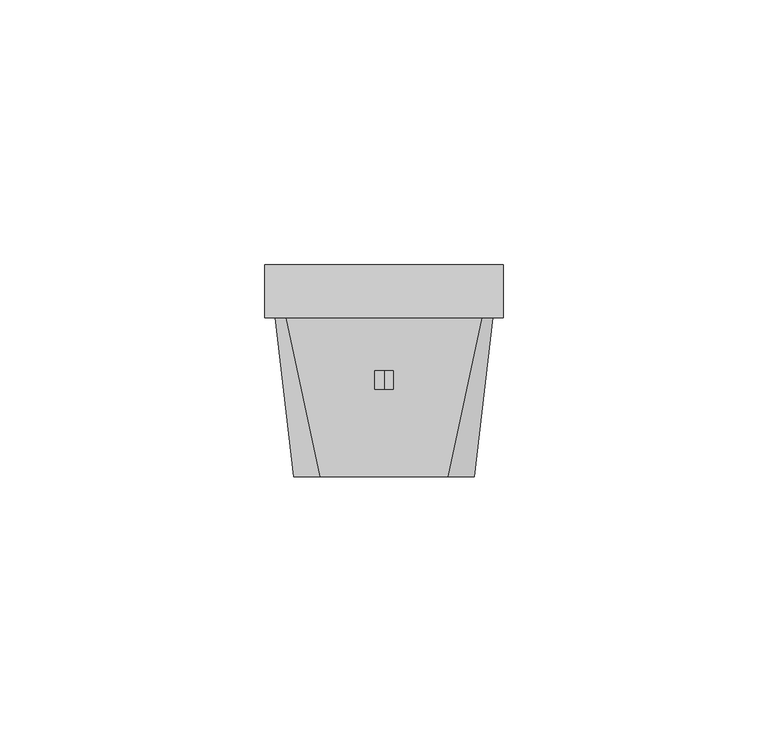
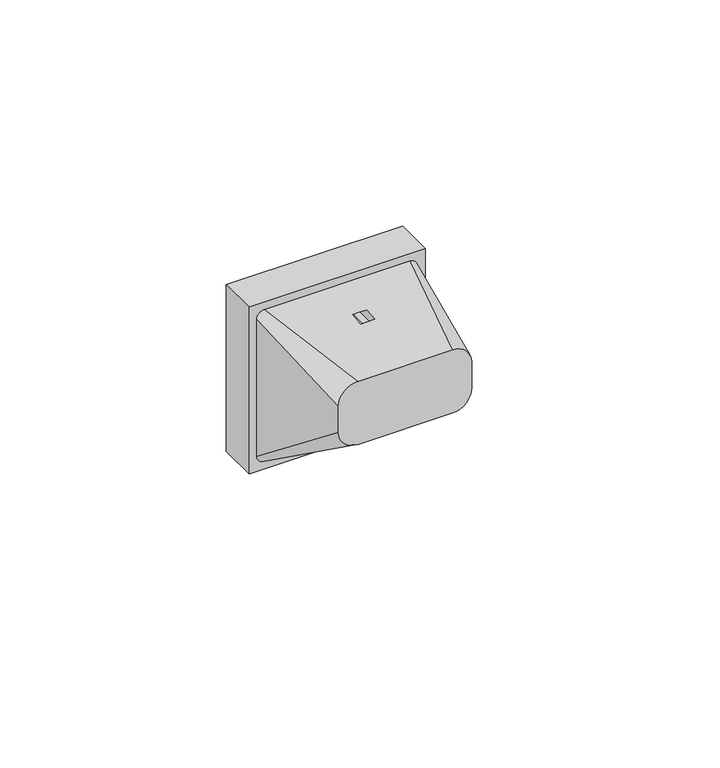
"""IFC4 building model written with IfcOpenShell, lengths in millimetres: proxy geometry, IEK_Skandy_Механизм розетки 230В : 230 В PE+шт._SK-R04B."""

import ifcopenshell
import ifcopenshell.guid

model = None  # the IFC model being written
_history = None  # IfcOwnerHistory: only IFC2X3 demands one
_inside = {}  # id of a spatial element -> (the spatial element, [elements in it])
_under = {}  # id of a project, library or spatial element -> (it, [spatial elements below it])
_declared = {}  # id of a project -> (the project, [libraries it declares])
_typed = {}  # id of a type object -> (the type object, [elements of that type])
_made_of = {}  # id of a material, layer set ... -> (it, [elements and type objects made of it])


def new_model(schema):
    """Start an empty IFC model of exactly this schema.

    Asked for "IFC4X3", IfcOpenShell would pick the latest addendum, in which some entities
    have other attributes; the version numbers below select the first issue.
    IFC2X3 requires an IfcOwnerHistory on every rooted entity: one is made here for all.
    """
    global model, _history
    if schema == "IFC4X3":
        model = ifcopenshell.file(schema_version=(4, 3, 0, 0))
    else:
        model = ifcopenshell.file(schema=schema)
    _inside.clear()
    _under.clear()
    _declared.clear()
    _typed.clear()
    _made_of.clear()
    _history = None
    if model.schema == "IFC2X3":
        org = make("IfcOrganization", Name="unknown")
        user = make(
            "IfcPersonAndOrganization",
            ThePerson=make("IfcPerson", FamilyName="unknown"),
            TheOrganization=org,
        )
        app = make(
            "IfcApplication",
            ApplicationDeveloper=org,
            Version="unknown",
            ApplicationFullName="unknown",
            ApplicationIdentifier="unknown",
        )
        _history = make(
            "IfcOwnerHistory",
            OwningUser=user,
            OwningApplication=app,
            ChangeAction="ADDED",
            CreationDate=0,
        )
    return model


def make(cls, **values):
    """One entity of the class cls with the attributes given. An attribute that is None is left unset."""
    return model.create_entity(
        cls, **{name: value for name, value in values.items() if value is not None}
    )


def rooted(cls, **values):
    """An entity with a GlobalId (a new one), such as an element, a storey or a relation."""
    return make(cls, GlobalId=ifcopenshell.guid.new(), OwnerHistory=_history, **values)


def si_unit(unit_type, name, prefix=None):
    """IfcSIUnit, for example si_unit("LENGTHUNIT", "METRE", prefix="MILLI")."""
    return make("IfcSIUnit", UnitType=unit_type, Prefix=prefix, Name=name)


def assignment(units):
    """IfcUnitAssignment: the units of a project."""
    return None if units is None else make("IfcUnitAssignment", Units=units)


def point(xyz):
    """IfcCartesianPoint."""
    return None if xyz is None else make("IfcCartesianPoint", Coordinates=xyz)


def direction(xyz):
    """IfcDirection."""
    return None if xyz is None else make("IfcDirection", DirectionRatios=xyz)


def frame(location, z_axis=None, x_axis=None):
    """IfcAxis2Placement3D, a coordinate frame: its origin and axes. An axis left out is left unset."""
    return make(
        "IfcAxis2Placement3D",
        Location=point(location),
        Axis=direction(z_axis),
        RefDirection=direction(x_axis),
    )


def frame_2d(location, x_axis=None):
    """IfcAxis2Placement2D, a coordinate frame in the plane: its origin and x axis."""
    return make(
        "IfcAxis2Placement2D", Location=point(location), RefDirection=direction(x_axis)
    )


def origin():
    """The frame at (0, 0, 0) with its axes left unset."""
    return frame((0.0, 0.0, 0.0))


def origin_2d():
    """The frame at (0, 0) in the plane with its x axis left unset."""
    return frame_2d((0.0, 0.0))


def place(relative_to, where):
    """IfcLocalPlacement: puts the frame where relative to a parent placement (None: the world)."""
    return make(
        "IfcLocalPlacement", PlacementRelTo=relative_to, RelativePlacement=where
    )


def context(
    kind, dimensions, precision=None, world=None, true_north=None, identifier=None
):
    """IfcGeometricRepresentationContext, for example the 3D "Model" context."""
    return make(
        "IfcGeometricRepresentationContext",
        ContextIdentifier=identifier,
        ContextType=kind,
        CoordinateSpaceDimension=dimensions,
        Precision=precision,
        WorldCoordinateSystem=world,
        TrueNorth=true_north,
    )


def project(units=None, contexts=None):
    """IfcProject with its units and contexts."""
    return rooted(
        "IfcProject",
        Name="project",
        RepresentationContexts=contexts,
        UnitsInContext=assignment(units),
    )


def spatial(cls, under=None, at=None, **own):
    """A site, building, storey or space (cls), placed at a placement, below another one or the project."""
    s = rooted(cls, ObjectPlacement=at, **own)
    if under is not None:
        _under.setdefault(under.id(), (under, []))[1].append(s)
    return s


def polyline(points):
    """IfcPolyline through the points."""
    return make("IfcPolyline", Points=[point(p) for p in points])


def circle_curve(where, radius):
    """IfcCircle in the frame where."""
    return make("IfcCircle", Position=where, Radius=radius)


def ellipse_curve(where, semi_axis1, semi_axis2):
    """IfcEllipse in the frame where."""
    return make(
        "IfcEllipse", Position=where, SemiAxis1=semi_axis1, SemiAxis2=semi_axis2
    )


def trimmed(basis, trim1, trim2, sense, master):
    """IfcTrimmedCurve: the piece of a basis curve between two trims."""
    return make(
        "IfcTrimmedCurve",
        BasisCurve=basis,
        Trim1=trim1,
        Trim2=trim2,
        SenseAgreement=sense,
        MasterRepresentation=master,
    )


def segment(curve, same_sense, transition):
    """IfcCompositeCurveSegment."""
    return make(
        "IfcCompositeCurveSegment",
        Transition=transition,
        SameSense=same_sense,
        ParentCurve=curve,
    )


def composite_curve(segments, self_intersect=None):
    """IfcCompositeCurve: segments joined end to end."""
    return make("IfcCompositeCurve", Segments=segments, SelfIntersect=self_intersect)


def outline(outer, holes=None, kind="AREA"):
    """IfcArbitraryClosedProfileDef: a profile drawn as a closed curve; with holes, ...WithVoids."""
    if holes is None:
        return make("IfcArbitraryClosedProfileDef", ProfileType=kind, OuterCurve=outer)
    return make(
        "IfcArbitraryProfileDefWithVoids",
        ProfileType=kind,
        OuterCurve=outer,
        InnerCurves=holes,
    )


def extrude(swept, where, along, depth):
    """IfcExtrudedAreaSolid: the profile swept, set in the frame where, extruded along a direction by depth."""
    return make(
        "IfcExtrudedAreaSolid",
        SweptArea=swept,
        Position=where,
        ExtrudedDirection=direction(along),
        Depth=depth,
    )


def shape(context_of_items, identifier, shape_type, items):
    """IfcShapeRepresentation: the items that make up one representation, for example the "Body"."""
    return make(
        "IfcShapeRepresentation",
        ContextOfItems=context_of_items,
        RepresentationIdentifier=identifier,
        RepresentationType=shape_type,
        Items=items,
    )


def source(mapping_origin, context_of_items, identifier, shape_type, items):
    """IfcRepresentationMap: a shape defined once, which mapped items show again and again."""
    return make(
        "IfcRepresentationMap",
        MappingOrigin=mapping_origin,
        MappedRepresentation=shape(context_of_items, identifier, shape_type, items),
    )


def transform(
    local_origin,
    x_axis=None,
    y_axis=None,
    z_axis=None,
    scale=None,
    scale2=None,
    scale3=None,
    uniform=True,
):
    """IfcCartesianTransformationOperator3D, or its non-uniform kind. x_axis, y_axis, z_axis: its Axis1, 2, 3."""
    if uniform:
        return make(
            "IfcCartesianTransformationOperator3D",
            Axis1=direction(x_axis),
            Axis2=direction(y_axis),
            LocalOrigin=point(local_origin),
            Scale=scale,
            Axis3=direction(z_axis),
        )
    return make(
        "IfcCartesianTransformationOperator3DnonUniform",
        Axis1=direction(x_axis),
        Axis2=direction(y_axis),
        LocalOrigin=point(local_origin),
        Scale=scale,
        Axis3=direction(z_axis),
        Scale2=scale2,
        Scale3=scale3,
    )


def mapped(mapping_source, mapping_target):
    """IfcMappedItem: shows the shape of a source again, moved by a transform."""
    return make(
        "IfcMappedItem", MappingSource=mapping_source, MappingTarget=mapping_target
    )


def made_of(thing, what):
    """Note that an element or type object is made of a material, layer set ...; save() writes the relation."""
    if what is not None:
        _made_of.setdefault(what.id(), (what, []))[1].append(thing)
    return thing


def element(
    cls,
    number,
    at=None,
    inside=None,
    cuts=None,
    type_object=None,
    material=None,
    context=None,
    identifier="Body",
    shape_type=None,
    held_by="IfcProductDefinitionShape",
    body=None,
    shapes=None,
    **own,
):
    """One element of the class cls, such as IfcWall. Its Tag is "e" and its number.

    at: its placement. inside: the storey or other place that contains it. cuts: it is an
    opening in that element (IfcRelVoidsElement). A single representation is given by context,
    identifier, shape_type and body (its items); several are given by shapes. held_by: the class
    of the entity that holds the representations. save() writes the other relations.
    """
    e = rooted(cls, Tag="e%d" % number, ObjectPlacement=at, **own)
    if body is not None:
        shapes = [shape(context, identifier, shape_type, body)]
    if shapes is not None:
        e.Representation = make(held_by, Representations=shapes)
    if inside is not None:
        _inside.setdefault(inside.id(), (inside, []))[1].append(e)
    if cuts is not None:
        rooted(
            "IfcRelVoidsElement", RelatingBuildingElement=cuts, RelatedOpeningElement=e
        )
    if type_object is not None:
        _typed.setdefault(type_object.id(), (type_object, []))[1].append(e)
    return made_of(e, material)


def aggregate(whole, parts):
    """IfcRelAggregates: a whole, such as a stair, and the parts it consists of."""
    return rooted("IfcRelAggregates", RelatingObject=whole, RelatedObjects=parts)


def save(model, path):
    """Write the relations noted so far, then the file.

    IfcRelAggregates (storeys below a building ...), IfcRelContainedInSpatialStructure (elements
    in a storey), IfcRelDefinesByType, IfcRelAssociatesMaterial and IfcRelDeclares: one each for
    every whole, place, type object, material and project.
    """
    for whole, parts in _under.values():
        aggregate(whole, parts)
    for where, things in _inside.values():
        rooted(
            "IfcRelContainedInSpatialStructure",
            RelatedElements=things,
            RelatingStructure=where,
        )
    for kind, things in _typed.values():
        rooted("IfcRelDefinesByType", RelatedObjects=things, RelatingType=kind)
    for what, things in _made_of.values():
        rooted("IfcRelAssociatesMaterial", RelatedObjects=things, RelatingMaterial=what)
    for by, libraries in _declared.values():
        rooted("IfcRelDeclares", RelatingContext=by, RelatedDefinitions=libraries)
    model.write(path)


def plane_surface(at):
    """IfcPlane: the flat surface through the origin of the frame at, square to its z axis."""
    return make("IfcPlane", Position=at)


def cylinder_surface(at, radius):
    """IfcCylindricalSurface: all points at the distance radius from the z axis of the frame at."""
    return make("IfcCylindricalSurface", Position=at, Radius=radius)


def revolved_surface(curve, axis_point, axis_direction):
    """IfcSurfaceOfRevolution: the curve turned about the line through axis_point along axis_direction."""
    return make(
        "IfcSurfaceOfRevolution",
        SweptCurve=make("IfcArbitraryOpenProfileDef", ProfileType="CURVE", Curve=curve),
        AxisPosition=make("IfcAxis1Placement", Location=point(axis_point), Axis=direction(axis_direction)),
    )


def spline_surface(u_degree, v_degree, points, u_multiplicities, v_multiplicities, u_knots, v_knots, weights=None):
    """IfcBSplineSurfaceWithKnots; with weights, IfcRationalBSplineSurfaceWithKnots. points: one row for each step in u."""
    own = dict(
        UDegree=u_degree,
        VDegree=v_degree,
        ControlPointsList=[[point(p) for p in row] for row in points],
        SurfaceForm="UNSPECIFIED",
        UClosed=False,
        VClosed=False,
        SelfIntersect=False,
        UMultiplicities=u_multiplicities,
        VMultiplicities=v_multiplicities,
        UKnots=u_knots,
        VKnots=v_knots,
        KnotSpec="UNSPECIFIED",
    )
    if weights is None:
        return make("IfcBSplineSurfaceWithKnots", **own)
    return make("IfcRationalBSplineSurfaceWithKnots", WeightsData=weights, **own)


def advanced_brep(points, edges, surfaces, faces):
    """IfcAdvancedBrep: a solid bounded by faces that lie on surfaces and meet in shared edges.

    An edge is (start, end): straight between two places in points (the first is 0);
    or (start, end, curve); or (start, end, curve, False) where it runs against its curve.
    A face is (place in surfaces, loops), or (place, loops, False) where it looks against
    its surface's normal. A loop lists edges by number (the first is 1), with a minus sign
    where the edge is run from its end to its start. The first loop is the outer one.
    """
    corners = [point(p) for p in points]
    vertices = [make("IfcVertexPoint", VertexGeometry=c) for c in corners]
    made = []
    for start, end, *more in edges:
        made.append(
            make(
                "IfcEdgeCurve",
                EdgeStart=vertices[start],
                EdgeEnd=vertices[end],
                EdgeGeometry=more[0] if more else make("IfcPolyline", Points=[corners[start], corners[end]]),
                SameSense=more[1] if len(more) > 1 else True,
            )
        )
    hull = []
    for where, loops, *sense in faces:
        bounds = []
        for j, loop in enumerate(loops):
            ring = [make("IfcOrientedEdge", EdgeElement=made[abs(k) - 1], Orientation=k > 0) for k in loop]
            bounds.append(
                make(
                    "IfcFaceOuterBound" if j == 0 else "IfcFaceBound",
                    Bound=make("IfcEdgeLoop", EdgeList=ring),
                    Orientation=True,
                )
            )
        hull.append(make("IfcAdvancedFace", Bounds=bounds, FaceSurface=surfaces[where], SameSense=sense[0] if sense else True))
    return make("IfcAdvancedBrep", Outer=make("IfcClosedShell", CfsFaces=hull))


def electrical_fixtures_e2d6db54(model_context):
    return source(origin(), model_context, "Body", "SolidModel", [
        advanced_brep(
        [(-12.0, -30.0, 17.0), (-17.0, -30.0, 12.0), (-17.0, -30.0, 5.0), (-12.0, -30.0, 0.0), (12.0, -30.0, 0.0), (17.0, -30.0, 5.0), (17.0, -30.0, 12.0), (12.0, -30.0, 17.0), (-18.5, 0.0, 20.5), (18.5, 0.0, 20.5), (20.5, 0.0, 18.5), (20.5, 0.0, -18.5), (18.5, 0.0, -20.5), (-18.5, 0.0, -20.5), (-20.5, 0.0, -18.5), (-20.5, 0.0, 18.5), (6.3904783, 0.0, 0.0), (11.8753617, 0.0, 0.0), (-3.0105286, 0.0, 0.0), (3.0105286, 0.0, 0.0), (-11.8753617, 0.0, 0.0), (-6.3904783, 0.0, 0.0), (1.7917908, 0.0, -19.3280847), (1.7917908, 0.0, -16.8280847), (0.0, 0.0, -16.8280847), (-1.7917908, 0.0, -16.8280847), (-1.7917908, 0.0, -19.3280847), (0.0, 0.0, -19.3280847), (1.7917908, 0.0, 19.3280847), (0.0, 0.0, 19.3280847), (-1.7917908, 0.0, 19.3280847), (-1.7917908, 0.0, 16.8280847), (0.0, 0.0, 16.8280847), (1.7917908, 0.0, 16.8280847), (1.7917908, -13.4962918, 18.9254326), (-1.7917908, -13.4962918, 18.9254326), (-1.7917908, -10.0449886, 19.3280847), (0.0, -10.0449886, 19.3280847), (1.7917908, -10.0449886, 19.3280847), (1.7917908, -5.3735346, -16.8280847), (1.7917908, -1.7149981, -19.3280847), (0.0, -1.7149981, -19.3280847), (-1.7917908, -1.7149981, -19.3280847), (-1.7917908, -5.3735346, -16.8280847), (0.0, -5.3735346, -16.8280847), (6.3904783, -13.4962918, 0.0), (11.8753617, -13.4962918, 0.0), (-3.0105286, -13.4962918, 0.0), (3.0105286, -13.4962918, 0.0), (-11.8753617, -13.4962918, 0.0), (-6.3904783, -13.4962918, 0.0), (1.7917908, -13.4962918, 16.8280847), (0.0, -13.4962918, 16.8280847), (-1.7917908, -13.4962918, 16.8280847)],
        [
            (0, 1, circle_curve(frame((-12.0, -30.0, 12.0), z_axis=(0.0, -1.0, 0.0), x_axis=(1.0, 0.0, 0.0)), 5.0)),
            (1, 2),
            (2, 3, circle_curve(frame((-12.0, -30.0, 5.0), z_axis=(0.0, -1.0, 0.0), x_axis=(1.0, 0.0, 0.0)), 5.0)),
            (3, 4),
            (4, 5, circle_curve(frame((12.0, -30.0, 5.0), z_axis=(0.0, -1.0, 0.0), x_axis=(1.0, 0.0, 0.0)), 5.0)),
            (5, 6),
            (6, 7, circle_curve(frame((12.0, -30.0, 12.0), z_axis=(0.0, -1.0, 0.0), x_axis=(1.0, 0.0, 0.0)), 5.0)),
            (7, 0),
            (8, 9),
            (9, 10, circle_curve(frame((18.5, 0.0, 18.5), z_axis=(0.0, 1.0, 0.0), x_axis=(1.0, 0.0, 0.0)), 2.0)),
            (10, 11),
            (11, 12, circle_curve(frame((18.5, 0.0, -18.5), z_axis=(0.0, 1.0, 0.0), x_axis=(1.0, 0.0, 0.0)), 2.0)),
            (12, 13),
            (13, 14, circle_curve(frame((-18.5, 0.0, -18.5), z_axis=(0.0, 1.0, 0.0), x_axis=(1.0, 0.0, 0.0)), 2.0)),
            (14, 15),
            (15, 8, circle_curve(frame((-18.5, 0.0, 18.5), z_axis=(0.0, 1.0, 0.0), x_axis=(1.0, 0.0, 0.0)), 2.0)),
            (16, 17, circle_curve(frame((9.13292, 0.0, 0.0), z_axis=(0.0, -1.0, 0.0), x_axis=(1.0, 0.0, 0.0)), 2.7424417)),
            (17, 16, circle_curve(frame((9.13292, 0.0, 0.0), z_axis=(0.0, -1.0, 0.0), x_axis=(1.0, 0.0, 0.0)), 2.7424417)),
            (18, 19, circle_curve(frame((0.0, 0.0, 0.0), z_axis=(0.0, -1.0, 0.0), x_axis=(1.0, 0.0, 0.0)), 3.0105286)),
            (19, 18, circle_curve(frame((0.0, 0.0, 0.0), z_axis=(0.0, -1.0, 0.0), x_axis=(1.0, 0.0, 0.0)), 3.0105286)),
            (20, 21, circle_curve(frame((-9.13292, 0.0, 0.0), z_axis=(0.0, -1.0, 0.0), x_axis=(1.0, 0.0, 0.0)), 2.7424417)),
            (21, 20, circle_curve(frame((-9.13292, 0.0, 0.0), z_axis=(0.0, -1.0, 0.0), x_axis=(1.0, 0.0, 0.0)), 2.7424417)),
            (22, 23),
            (23, 24),
            (24, 25),
            (25, 26),
            (26, 27),
            (27, 22),
            (28, 29),
            (29, 30),
            (30, 31),
            (31, 32),
            (32, 33),
            (33, 28),
            (7, 9),
            (8, 0),
            (34, 35),
            (35, 36),
            (36, 37),
            (37, 38),
            (38, 34),
            (6, 10),
            (5, 11),
            (4, 12),
            (3, 13),
            (39, 40),
            (40, 41),
            (41, 42),
            (42, 43),
            (43, 44),
            (44, 39),
            (2, 14),
            (1, 15),
            (45, 46, circle_curve(frame((9.13292, -13.4962918, 0.0), z_axis=(0.0, 1.0, 0.0), x_axis=(1.0, 0.0, 0.0)), 2.7424417)),
            (46, 45, circle_curve(frame((9.13292, -13.4962918, 0.0), z_axis=(0.0, 1.0, 0.0), x_axis=(1.0, 0.0, 0.0)), 2.7424417)),
            (47, 48, circle_curve(frame((0.0, -13.4962918, 0.0), z_axis=(0.0, 1.0, 0.0), x_axis=(1.0, 0.0, 0.0)), 3.0105286)),
            (48, 47, circle_curve(frame((0.0, -13.4962918, 0.0), z_axis=(0.0, 1.0, 0.0), x_axis=(1.0, 0.0, 0.0)), 3.0105286)),
            (49, 50, circle_curve(frame((-9.13292, -13.4962918, 0.0), z_axis=(0.0, 1.0, 0.0), x_axis=(1.0, 0.0, 0.0)), 2.7424417)),
            (50, 49, circle_curve(frame((-9.13292, -13.4962918, 0.0), z_axis=(0.0, 1.0, 0.0), x_axis=(1.0, 0.0, 0.0)), 2.7424417)),
            (51, 52),
            (52, 53),
            (53, 35),
            (34, 51),
            (46, 17),
            (16, 45),
            (48, 19),
            (18, 47),
            (50, 21),
            (20, 49),
            (28, 38),
            (37, 29),
            (36, 30),
            (53, 31),
            (52, 32),
            (51, 33),
            (22, 40),
            (39, 23),
            (44, 24),
            (43, 25),
            (42, 26),
            (41, 27),
        ],
        [
            plane_surface(frame((0.0, -30.0, 8.5), z_axis=(0.0, -1.0, 0.0), x_axis=(-1.0, 0.0, 0.0))),
            plane_surface(frame((0.0, 0.0, 0.0), z_axis=(0.0, 1.0, 0.0), x_axis=(-1.0, 0.0, 0.0))),
            plane_surface(frame((0.0, 0.0, 20.5), z_axis=(0.0, -0.11588069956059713, 0.9932631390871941), x_axis=(-1.0, 0.0, 0.0))),
            spline_surface(2, 1, [[(20.5, 0.0, 18.5), (17.0, -30.0, 12.0)], [(20.5, 0.0, 20.5), (17.0, -30.0, 17.0)], [(18.5, 0.0, 20.5), (12.0, -30.0, 17.0)]], [3, 3], [2, 2], [0.0, 1.0], [0.0, 1.0], weights=[[1.0, 1.0], [0.7071067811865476, 0.7071067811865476], [1.0, 1.0]]),
            plane_surface(frame((20.5, 0.0, 0.0), z_axis=(0.993263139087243, -0.11588069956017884, 0.0), x_axis=(0.0, 0.0, 1.0))),
            spline_surface(2, 1, [[(18.5, 0.0, -20.5), (12.0, -30.0, 0.0)], [(20.5, 0.0, -20.5), (17.0, -30.0, 0.0)], [(20.5, 0.0, -18.5), (17.0, -30.0, 5.0)]], [3, 3], [2, 2], [0.0, 1.0], [0.0, 1.0], weights=[[1.0, 1.0], [0.7071067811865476, 0.7071067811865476], [1.0, 1.0]]),
            plane_surface(frame((0.0, 0.0, -20.5), z_axis=(0.0, -0.5641905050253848, -0.8256446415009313), x_axis=(1.0, 0.0, 0.0))),
            spline_surface(2, 1, [[(-20.5, 0.0, -18.5), (-17.0, -30.0, 5.0)], [(-20.5, 0.0, -20.5), (-17.0, -30.0, 0.0)], [(-18.5, 0.0, -20.5), (-12.0, -30.0, 0.0)]], [3, 3], [2, 2], [0.0, 1.0], [0.0, 1.0], weights=[[1.0, 1.0], [0.7071067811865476, 0.7071067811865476], [1.0, 1.0]]),
            plane_surface(frame((-20.5, 0.0, 0.0), z_axis=(-0.9932631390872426, -0.11588069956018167, 0.0), x_axis=(0.0, 0.0, -1.0))),
            spline_surface(2, 1, [[(-18.5, 0.0, 20.5), (-12.0, -30.0, 17.0)], [(-20.5, 0.0, 20.5), (-17.0, -30.0, 17.0)], [(-20.5, 0.0, 18.5), (-17.0, -30.0, 12.0)]], [3, 3], [2, 2], [0.0, 1.0], [0.0, 1.0], weights=[[1.0, 1.0], [0.7071067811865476, 0.7071067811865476], [1.0, 1.0]]),
            plane_surface(frame((11.8753617, -13.4962918, 0.0), z_axis=(0.0, 1.0, 0.0), x_axis=(0.0, 0.0, 1.0))),
            revolved_surface(polyline([(11.875361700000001, -13.4962918, 0.0), (11.875361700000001, 0.0, 0.0)]), (9.13292, 0.0, 0.0), (0.0, -1.0, 0.0)),
            revolved_surface(polyline([(3.0105286, -13.4962918, 0.0), (3.0105286, 0.0, 0.0)]), (0.0, -2.0, 0.0), (0.0, -1.0, 0.0)),
            revolved_surface(polyline([(-6.3904783, -13.4962918, 0.0), (-6.3904783, 0.0, 0.0)]), (-9.13292, -2.0, 0.0), (0.0, -1.0, 0.0)),
            plane_surface(frame((1.7917908, -13.4962918, 19.3280847), z_axis=(0.0, 0.0, -1.0), x_axis=(0.0, 1.0, 0.0))),
            plane_surface(frame((0.0, -13.4962918, 19.3280847), z_axis=(0.0, 0.0, -1.0), x_axis=(0.0, 1.0, 0.0))),
            plane_surface(frame((-1.7917908, -13.4962918, 19.3280847), z_axis=(1.0, 0.0, 0.0), x_axis=(0.0, 1.0, 0.0))),
            plane_surface(frame((-1.7917908, -13.4962918, 16.8280847), z_axis=(0.0, 0.0, 1.0), x_axis=(0.0, 1.0, 0.0))),
            plane_surface(frame((0.0, -13.4962918, 16.8280847), z_axis=(0.0, 0.0, 1.0), x_axis=(0.0, 1.0, 0.0))),
            plane_surface(frame((1.7917908, -13.4962918, 16.8280847), z_axis=(-1.0, 0.0, 0.0), x_axis=(0.0, 1.0, 0.0))),
            plane_surface(frame((1.7917908, -13.4962918, -19.3280847), z_axis=(-1.0, 0.0, 0.0), x_axis=(0.0, 1.0, 0.0))),
            plane_surface(frame((1.7917908, -13.4962918, -16.8280847), z_axis=(0.0, 0.0, -1.0), x_axis=(0.0, 1.0, 0.0))),
            plane_surface(frame((0.0, -13.4962918, -16.8280847), z_axis=(0.0, 0.0, -1.0), x_axis=(0.0, 1.0, 0.0))),
            plane_surface(frame((-1.7917908, -13.4962918, -16.8280847), z_axis=(1.0, 0.0, 0.0), x_axis=(0.0, 1.0, 0.0))),
            plane_surface(frame((-1.7917908, -13.4962918, -19.3280847), z_axis=(0.0, 0.0, 1.0), x_axis=(0.0, 1.0, 0.0))),
            plane_surface(frame((0.0, -13.4962918, -19.3280847), z_axis=(0.0, 0.0, 1.0), x_axis=(0.0, 1.0, 0.0))),
        ],
        [
            (0, [[1, 2, 3, 4, 5, 6, 7, 8]]),
            (1, [[9, 10, 11, 12, 13, 14, 15, 16], [17, 18], [19, 20], [21, 22], [23, 24, 25, 26, 27, 28], [29, 30, 31, 32, 33, 34]]),
            (2, [[-8, 35, -9, 36], [37, 38, 39, 40, 41]]),
            (3, [[-7, 42, -10, -35]]),
            (4, [[-6, 43, -11, -42]]),
            (5, [[-5, 44, -12, -43]]),
            (6, [[-4, 45, -13, -44], [46, 47, 48, 49, 50, 51]]),
            (7, [[-3, 52, -14, -45]]),
            (8, [[-2, 53, -15, -52]]),
            (9, [[-1, -36, -16, -53]]),
            (10, [[54, 55]]),
            (10, [[56, 57]]),
            (10, [[58, 59]]),
            (10, [[60, 61, 62, -37, 63]]),
            (11, [[-55, 64, -17, 65]]),
            (11, [[-54, -65, -18, -64]]),
            (12, [[-57, 66, -19, 67]]),
            (12, [[-56, -67, -20, -66]]),
            (13, [[-59, 68, -21, 69]]),
            (13, [[-58, -69, -22, -68]]),
            (14, [[70, -40, 71, -29]]),
            (15, [[-71, -39, 72, -30]]),
            (16, [[73, -31, -72, -38, -62]]),
            (17, [[-61, 74, -32, -73]]),
            (18, [[-60, 75, -33, -74]]),
            (19, [[-75, -63, -41, -70, -34]]),
            (20, [[76, -46, 77, -23]]),
            (21, [[-77, -51, 78, -24]]),
            (22, [[-78, -50, 79, -25]]),
            (23, [[-79, -49, 80, -26]]),
            (24, [[-80, -48, 81, -27]]),
            (25, [[-76, -28, -81, -47]]),
        ],
    ),
        extrude(outline(polyline([(22.5, -22.5), (-22.5, -22.5), (-22.5, 22.5), (22.5, 22.5), (22.5, -22.5)]), holes=[composite_curve([segment(trimmed(circle_curve(origin_2d(), 20.0), [point((0.0, 20.0))], [point((0.0, -20.0))], True, "CARTESIAN"), True, "CONTINUOUS"), segment(trimmed(circle_curve(origin_2d(), 20.0), [point((0.0, -20.0))], [point((0.0, 20.0))], True, "CARTESIAN"), True, "CONTINUOUS")], self_intersect=False)]), frame((0.0, 0.0, 0.0), z_axis=(0.0, 1.0, 0.0), x_axis=(0.0, 0.0, 1.0)), (0.0, 0.0, 1.0), 10.0),
        extrude(outline(composite_curve([segment(polyline([(7.6710794, -19.3739261), (-1.7, -18.7042816), (-1.7, -17.5095674), (5.5330873, -18.3510967)]), True, "CONTINUOUS"), segment(trimmed(circle_curve(frame_2d((6.4251956, -19.2322549)), 1.2539127), [point((5.5330873, -18.3510967))], [point((7.6710794, -19.3739261))], False, "CARTESIAN"), True, "CONTINUOUS")], self_intersect=False)), frame((-1.5, 0.0, 0.0), z_axis=(1.0, 0.0, 0.0), x_axis=(0.0, 1.0, 0.0)), (0.0, 0.0, 1.0), 3.0),
        extrude(outline(composite_curve([segment(trimmed(circle_curve(frame_2d((6.4251956, 19.2322549)), 1.2539127), [point((7.6710794, 19.3739261))], [point((5.5330873, 18.3510967))], False, "CARTESIAN"), True, "CONTINUOUS"), segment(polyline([(5.5330873, 18.3510967), (-1.7, 17.5095674), (-1.7, 18.7042816), (7.6710794, 19.3739261)]), True, "CONTINUOUS")], self_intersect=False)), frame((-1.5, 0.0, 0.0), z_axis=(1.0, 0.0, 0.0), x_axis=(0.0, 1.0, 0.0)), (0.0, 0.0, 1.0), 3.0),
        advanced_brep(
        [(0.0, 0.078125, -2.8986917), (0.0, 0.078125, 2.8986917), (0.0, 0.8649081, 0.0), (0.0, -1.7, -2.8986917), (0.0, -1.7, 2.8986917), (0.0, -1.7, 0.0)],
        [
            (0, 1, circle_curve(frame((0.0, 0.078125, 0.0), z_axis=(0.0, 1.0, 0.0), x_axis=(0.0, 0.0, 1.0)), 2.8986917)),
            (1, 2, ellipse_curve(frame((0.0, 0.078125, 0.15625), z_axis=(-1.0, 0.0, 0.0), x_axis=(0.0, 0.0, 1.0)), 2.7424417, 0.7880633)),
            (2, 0, ellipse_curve(frame((0.0, 0.078125, -0.15625), z_axis=(-1.0, 0.0, 0.0), x_axis=(0.0, 0.0, -1.0)), 2.7424417, 0.7880633)),
            (1, 0, circle_curve(frame((0.0, 0.078125, 0.0), z_axis=(0.0, 1.0, 0.0), x_axis=(0.0, 0.0, 1.0)), 2.8986917)),
            (3, 4, circle_curve(frame((0.0, -1.7, 0.0), z_axis=(0.0, 1.0, 0.0), x_axis=(0.0, 0.0, 1.0)), 2.8986917)),
            (4, 1),
            (0, 3),
            (4, 3, circle_curve(frame((0.0, -1.7, 0.0), z_axis=(0.0, 1.0, 0.0), x_axis=(0.0, 0.0, 1.0)), 2.8986917)),
            (5, 4),
            (3, 5),
        ],
        [
            revolved_surface(trimmed(ellipse_curve(frame((0.0, 0.078125, 0.15625), z_axis=(1.0, 0.0, 0.0), x_axis=(0.0, 0.0, 1.0)), 2.7424417, 0.7880633), [point((0.0, 0.8649081, 0.0))], [point((0.0, 0.078125, 2.8986917))], True, "CARTESIAN"), (0.0, -3.0228134, 0.0), (0.0, -1.0, 0.0)),
            cylinder_surface(frame((0.0, -3.0228134, 0.0), z_axis=(0.0, -1.0, 0.0), x_axis=(0.0, 0.0, 1.0)), 2.8986917),
            plane_surface(frame((0.0, -1.7, 0.0), z_axis=(0.0, -1.0, 0.0), x_axis=(0.0, 0.0, 1.0))),
        ],
        [
            (0, [[1, 2, 3]]),
            (0, [[4, -3, -2]]),
            (1, [[5, 6, -1, 7]]),
            (1, [[8, -7, -4, -6]]),
            (2, [[9, -5, 10]]),
            (2, [[-10, -8, -9]]),
        ],
    ),
        extrude(outline(composite_curve([segment(polyline([(3.2980592, 16.488464), (3.2980592, 19.7261959)]), True, "CONTINUOUS"), segment(trimmed(circle_curve(origin_2d(), 20.0), [point((3.2980592, 19.7261959))], [point((11.3194768, 16.488464))], False, "CARTESIAN"), True, "CONTINUOUS"), segment(polyline([(11.3194768, 16.488464), (3.2980592, 16.488464)]), True, "CONTINUOUS")], self_intersect=False)), frame((0.0, 0.0, 0.0), z_axis=(0.0, 1.0, 0.0), x_axis=(0.0, 0.0, 1.0)), (0.0, 0.0, 1.0), 8.0),
        extrude(outline(composite_curve([segment(polyline([(-3.2980592, 16.488464), (-11.3194768, 16.488464)]), True, "CONTINUOUS"), segment(trimmed(circle_curve(origin_2d(), 20.0), [point((-11.3194768, 16.488464))], [point((-3.2980592, 19.7261959))], False, "CARTESIAN"), True, "CONTINUOUS"), segment(polyline([(-3.2980592, 19.7261959), (-3.2980592, 16.488464)]), True, "CONTINUOUS")], self_intersect=False)), frame((0.0, 0.0, 0.0), z_axis=(0.0, 1.0, 0.0), x_axis=(0.0, 0.0, 1.0)), (0.0, 0.0, 1.0), 8.0),
        extrude(outline(composite_curve([segment(polyline([(3.2980592, -16.488464), (11.3194768, -16.488464)]), True, "CONTINUOUS"), segment(trimmed(circle_curve(origin_2d(), 20.0), [point((11.3194768, -16.488464))], [point((3.2980592, -19.7261959))], False, "CARTESIAN"), True, "CONTINUOUS"), segment(polyline([(3.2980592, -19.7261959), (3.2980592, -16.488464)]), True, "CONTINUOUS")], self_intersect=False)), frame((0.0, 0.0, 0.0), z_axis=(0.0, 1.0, 0.0), x_axis=(0.0, 0.0, 1.0)), (0.0, 0.0, 1.0), 8.0),
        extrude(outline(composite_curve([segment(polyline([(-3.2980592, -16.488464), (-3.2980592, -19.7261959)]), True, "CONTINUOUS"), segment(trimmed(circle_curve(origin_2d(), 20.0), [point((-3.2980592, -19.7261959))], [point((-11.3194768, -16.488464))], False, "CARTESIAN"), True, "CONTINUOUS"), segment(polyline([(-11.3194768, -16.488464), (-3.2980592, -16.488464)]), True, "CONTINUOUS")], self_intersect=False)), frame((0.0, 0.0, 0.0), z_axis=(0.0, 1.0, 0.0), x_axis=(0.0, 0.0, 1.0)), (0.0, 0.0, 1.0), 8.0),
    ])


if __name__ == "__main__":
    model = new_model("IFC4")
    model_context = context("Model", 3, world=origin())
    ifc_project = project(units=[si_unit("LENGTHUNIT", "METRE", prefix="MILLI")], contexts=[model_context])
    site = spatial("IfcSite", under=ifc_project)
    building = spatial("IfcBuilding", under=site)
    placement = place(None, origin())
    electrical_fixtures_shape = electrical_fixtures_e2d6db54(model_context)
    element("IfcBuildingElementProxy", 1, Name="IEK_Skandy_Механизм розетки 230В : 230 В PE+шт._SK-R04B", ObjectType="IEK_Skandy_Механизм розетки 230В : 230 В PE+шт._SK-R04B", at=placement, inside=building, context=model_context, shape_type="MappedRepresentation", body=[
        mapped(electrical_fixtures_shape, transform((0.0, 0.0, 0.0), x_axis=(1.0, 0.0, 0.0), y_axis=(0.0, 1.0, 0.0), z_axis=(0.0, 0.0, 1.0))),
    ])
    save(model, "model.ifc")
